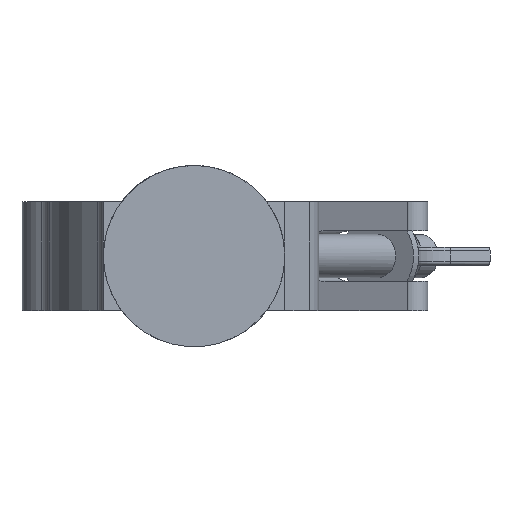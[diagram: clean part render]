
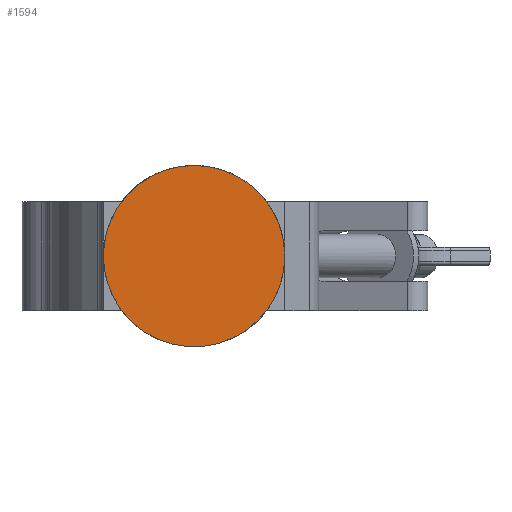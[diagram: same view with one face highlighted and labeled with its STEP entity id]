
A CAD part, front view. The second image highlights one B-rep face of the part: STEP entity #1594.
In plain terms, the highlighted planar face has unit normal (0, -1, 0).
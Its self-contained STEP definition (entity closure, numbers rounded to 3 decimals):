
#122=PLANE('',#1773);
#199=FACE_OUTER_BOUND('',#284,.T.);
#284=EDGE_LOOP('',(#1375,#1376));
#355=CIRCLE('',#1774,25.);
#356=CIRCLE('',#1775,25.);
#712=VERTEX_POINT('',#2856);
#713=VERTEX_POINT('',#2857);
#936=EDGE_CURVE('',#712,#713,#355,.T.);
#937=EDGE_CURVE('',#713,#712,#356,.T.);
#1375=ORIENTED_EDGE('',*,*,#936,.T.);
#1376=ORIENTED_EDGE('',*,*,#937,.T.);
#1594=ADVANCED_FACE('',(#199),#122,.T.);
#1773=AXIS2_PLACEMENT_3D('',#2855,#2196,#2197);
#1774=AXIS2_PLACEMENT_3D('',#2858,#2198,#2199);
#1775=AXIS2_PLACEMENT_3D('',#2859,#2200,#2201);
#2196=DIRECTION('center_axis',(0.,-1.,0.));
#2197=DIRECTION('ref_axis',(0.707,0.,0.707));
#2198=DIRECTION('center_axis',(0.,-1.,0.));
#2199=DIRECTION('ref_axis',(1.,0.,0.));
#2200=DIRECTION('center_axis',(0.,-1.,0.));
#2201=DIRECTION('ref_axis',(1.,0.,0.));
#2855=CARTESIAN_POINT('Origin',(-17.678,-112.,17.678));
#2856=CARTESIAN_POINT('',(25.,-112.,0.));
#2857=CARTESIAN_POINT('',(17.678,-112.,-17.678));
#2858=CARTESIAN_POINT('Origin',(0.,-112.,0.));
#2859=CARTESIAN_POINT('Origin',(0.,-112.,0.));
